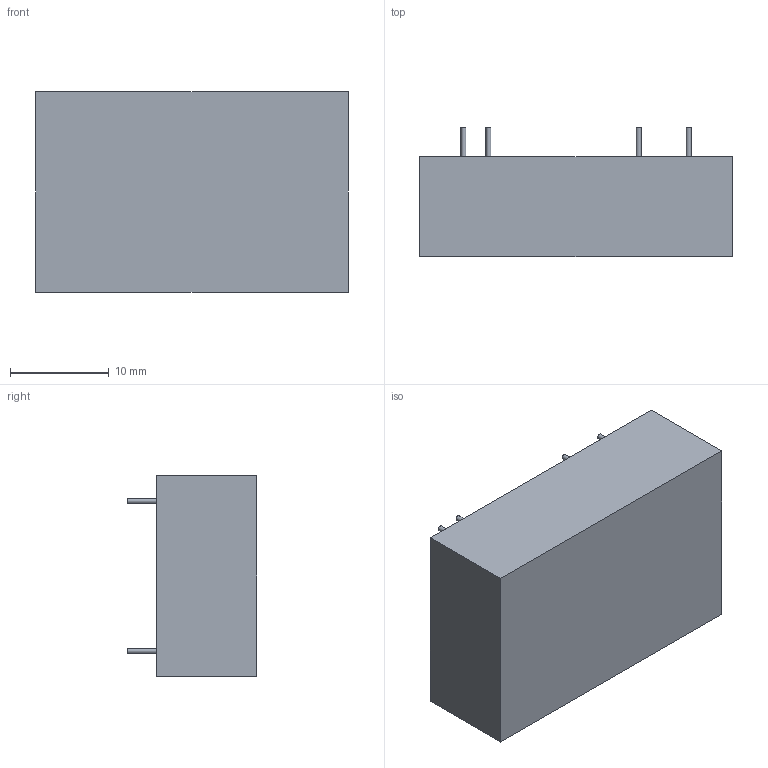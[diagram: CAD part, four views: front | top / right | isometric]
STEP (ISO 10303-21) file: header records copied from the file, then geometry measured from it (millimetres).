
FILE_DESCRIPTION(/* description */ ('Unknown'),/* implementation_level */ '2;1');
FILE_NAME(/* name */ 'JTC04(S)(-H)(P)',/* time_stamp */ '2017-12-01T15:24:28+08:00',/* author */ ('Unknown'),/* organization */ ('Unknown'),/* preprocessor_version */ 'ST-DEVELOPER v16.7',/* originating_system */ 'DEX',/* authorisation */ $);
FILE_SCHEMA (('AUTOMOTIVE_DESIGN {1 0 10303 214 3 1 1}'));
Length unit declared in the file: millimetre
Products named in the file (1): JTC04(S)(-H)(P)
Bounding box: 31.75 x 13.16 x 20.32 mm (x, y, z)
Volume: 6524.1 mm3; surface area: 2404.8 mm2
Topology: 2 solids, 2 shells, 62 faces, 99 edges, 66 vertices
Faces by surface type: plane 35, cylinder 27
Full cylindrical faces by diameter (mm): 0.5 x25
Entity records: 1347 total; most frequent: DIRECTION 254, CARTESIAN_POINT 203, ORIENTED_EDGE 148, AXIS2_PLACEMENT_3D 117, EDGE_LOOP 112, FACE_BOUND 112, EDGE_CURVE 74, VERTEX_POINT 66
